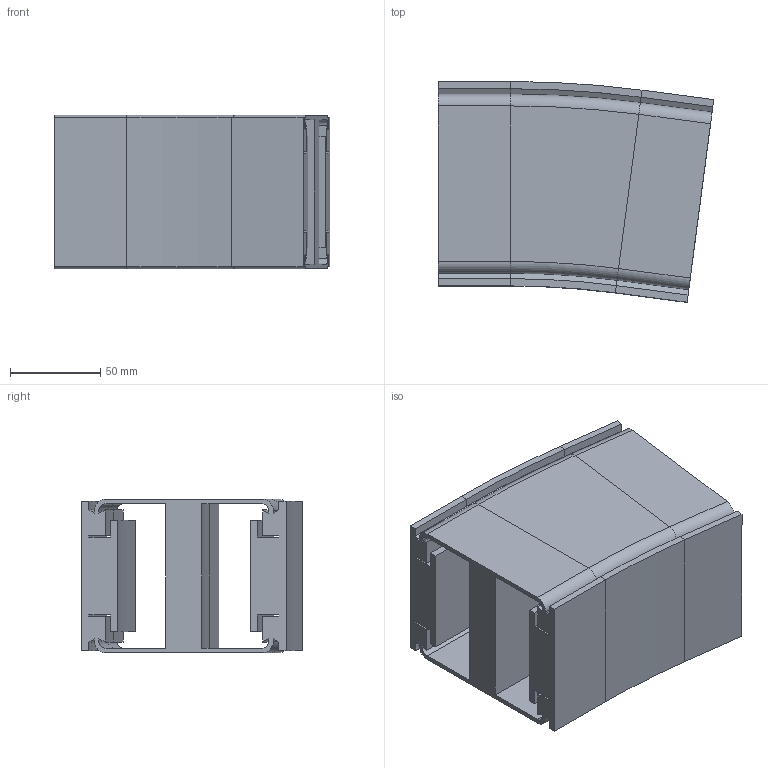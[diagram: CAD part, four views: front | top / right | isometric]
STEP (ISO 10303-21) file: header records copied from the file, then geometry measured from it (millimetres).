
FILE_DESCRIPTION (( 'STEP AP214' ), '1' );
FILE_NAME ('VC.85 Verticale bochtsectie.R500 7,5.STEP', '2017-02-08T08:13:07', ( '' ), ( '' ), 'SwSTEP 2.0', 'SolidWorks 2016', '' );
FILE_SCHEMA (( 'AUTOMOTIVE_DESIGN' ));
Length unit declared in the file: millimetre
Products named in the file (1): VC.85 Verticale bochtsectie.R500 7,5
Bounding box: 152.3 x 122.02 x 85 mm (x, y, z)
Volume: 693378.4 mm3; surface area: 167886.5 mm2
Topology: 1 solids, 1 shells, 206 faces, 476 edges, 272 vertices
Faces by surface type: plane 144, cylinder 46, cone 8, torus 8
Entity records: 5674 total; most frequent: DIRECTION 990, CARTESIAN_POINT 955, ORIENTED_EDGE 952, EDGE_CURVE 476, LINE 376, VECTOR 376, AXIS2_PLACEMENT_3D 307, VERTEX_POINT 272
